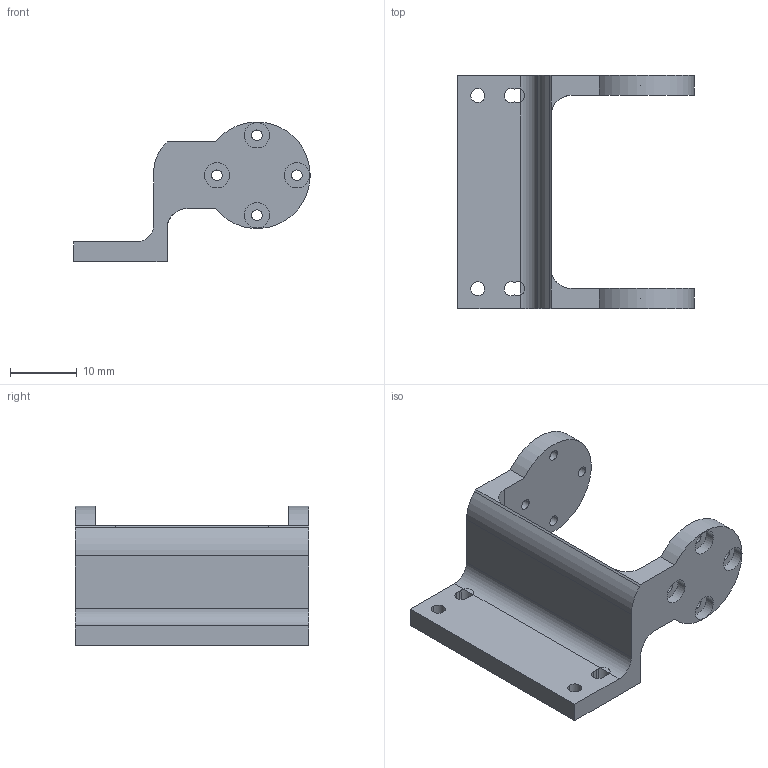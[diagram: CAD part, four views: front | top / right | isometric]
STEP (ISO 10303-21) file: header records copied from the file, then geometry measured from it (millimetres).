
FILE_DESCRIPTION (( 'STEP AP214' ), '1' );
FILE_NAME ('Palm_Joint2.STEP', '2026-09-16T05:56:57', ( '' ), ( '' ), 'SwSTEP 2.0', 'SolidWorks 2024', '' );
FILE_SCHEMA (( 'AUTOMOTIVE_DESIGN' ));
Length unit declared in the file: millimetre
Products named in the file (2): 侧摆连接件; Palm_Joint2
Assembly tree (1 placements, depth 2):
  Palm_Joint2
    侧摆连接件
Bounding box: 35.5 x 35 x 20.98 mm (x, y, z)
Volume: 3884.9 mm3; surface area: 3810.4 mm2
Topology: 1 solids, 1 shells, 82 faces, 214 edges, 140 vertices
Faces by surface type: cylinder 58, plane 24
Entity records: 2673 total; most frequent: DIRECTION 500, CARTESIAN_POINT 446, ORIENTED_EDGE 428, EDGE_CURVE 214, AXIS2_PLACEMENT_3D 202, VERTEX_POINT 140, CIRCLE 116, EDGE_LOOP 112
